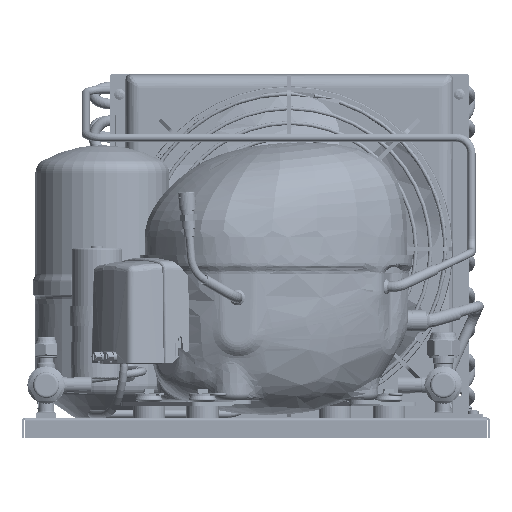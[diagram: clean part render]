
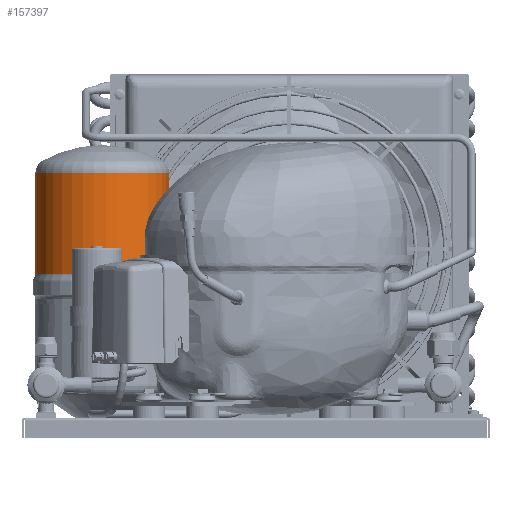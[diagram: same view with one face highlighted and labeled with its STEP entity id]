
A CAD part, front view. The second image highlights one B-rep face of the part: STEP entity #157397.
In plain terms, the highlighted cylindrical face has radius 50 mm (diameter 100 mm), a full revolution.
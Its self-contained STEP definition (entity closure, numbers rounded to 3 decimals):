
#3761=B_SPLINE_CURVE_WITH_KNOTS('',3,(#261735,#261736,#261737,#261738,#261739,
#261740,#261741,#261742,#261743,#261744,#261745,#261746,#261747,#261748,
#261749,#261750,#261751,#261752,#261753,#261754,#261755,#261756,#261757,
#261758,#261759,#261760,#261761,#261762,#261763),.UNSPECIFIED.,.T.,.F.,
(1,1,1,1,1,1,1,1,1,1,1,1,1,1,1,1,1,1,1,1,1,1,1,1,1,1,1,1,1,1,1,1,1),(-0.128,
-0.066,-0.033,0.,0.059,0.091,0.122,
0.184,0.215,0.247,0.309,0.34,
0.372,0.434,0.497,0.5,
0.53,0.559,0.591,0.622,
0.684,0.715,0.747,0.778,
0.809,0.84,0.872,0.934,
0.967,1.,1.059,1.091,1.122),.UNSPECIFIED.);
#40418=CYLINDRICAL_SURFACE('',#167180,50.);
#42891=CIRCLE('',#167181,50.);
#42892=CIRCLE('',#167182,50.);
#59925=ORIENTED_EDGE('',*,*,#89938,.T.);
#59926=ORIENTED_EDGE('',*,*,#89939,.T.);
#59927=ORIENTED_EDGE('',*,*,#89940,.T.);
#89938=EDGE_CURVE('',#106049,#106049,#42891,.F.);
#89939=EDGE_CURVE('',#106050,#106050,#3761,.T.);
#89940=EDGE_CURVE('',#106051,#106051,#42892,.T.);
#106049=VERTEX_POINT('',#261734);
#106050=VERTEX_POINT('',#261764);
#106051=VERTEX_POINT('',#261766);
#133126=EDGE_LOOP('',(#59925));
#133127=EDGE_LOOP('',(#59926));
#133128=EDGE_LOOP('',(#59927));
#143175=FACE_BOUND('',#133126,.T.);
#143176=FACE_BOUND('',#133127,.T.);
#143177=FACE_BOUND('',#133128,.T.);
#157397=ADVANCED_FACE('',(#143175,#143176,#143177),#40418,.T.);
#167180=AXIS2_PLACEMENT_3D('',#261732,#186169,#186170);
#167181=AXIS2_PLACEMENT_3D('',#261733,#186171,#186172);
#167182=AXIS2_PLACEMENT_3D('',#261765,#186173,#186174);
#186169=DIRECTION('',(0.,0.,-1.));
#186170=DIRECTION('',(-1.,0.,0.));
#186171=DIRECTION('',(0.,0.,-1.));
#186172=DIRECTION('',(-1.,0.,0.));
#186173=DIRECTION('',(0.,0.,-1.));
#186174=DIRECTION('',(-1.,0.,0.));
#261732=CARTESIAN_POINT('',(0.,0.,-11.));
#261733=CARTESIAN_POINT('',(0.,0.,107.849));
#261734=CARTESIAN_POINT('',(-50.,0.,107.849));
#261735=CARTESIAN_POINT('',(-49.98,1.706,178.875));
#261736=CARTESIAN_POINT('',(-50.018,-0.456,179.116));
#261737=CARTESIAN_POINT('',(-49.95,-2.604,178.671));
#261738=CARTESIAN_POINT('',(-49.8,-4.535,177.616));
#261739=CARTESIAN_POINT('',(-49.621,-6.235,176.171));
#261740=CARTESIAN_POINT('',(-49.438,-7.497,174.214));
#261741=CARTESIAN_POINT('',(-49.325,-8.192,171.93));
#261742=CARTESIAN_POINT('',(-49.28,-8.45,169.606));
#261743=CARTESIAN_POINT('',(-49.349,-8.059,167.251));
#261744=CARTESIAN_POINT('',(-49.502,-7.059,165.111));
#261745=CARTESIAN_POINT('',(-49.681,-5.722,163.275));
#261746=CARTESIAN_POINT('',(-49.912,-3.443,161.549));
#261747=CARTESIAN_POINT('',(-49.998,-1.227,161.013));
#261748=CARTESIAN_POINT('',(-50.001,0.471,160.994));
#261749=CARTESIAN_POINT('',(-49.984,1.543,161.103));
#261750=CARTESIAN_POINT('',(-49.913,3.082,161.587));
#261751=CARTESIAN_POINT('',(-49.8,4.538,162.384));
#261752=CARTESIAN_POINT('',(-49.621,6.236,163.83));
#261753=CARTESIAN_POINT('',(-49.438,7.495,165.787));
#261754=CARTESIAN_POINT('',(-49.325,8.193,168.074));
#261755=CARTESIAN_POINT('',(-49.292,8.384,169.817));
#261756=CARTESIAN_POINT('',(-49.313,8.259,171.577));
#261757=CARTESIAN_POINT('',(-49.389,7.803,173.293));
#261758=CARTESIAN_POINT('',(-49.503,7.054,174.896));
#261759=CARTESIAN_POINT('',(-49.682,5.713,176.735));
#261760=CARTESIAN_POINT('',(-49.869,3.878,178.115));
#261761=CARTESIAN_POINT('',(-49.98,1.706,178.875));
#261762=CARTESIAN_POINT('',(-50.018,-0.456,179.116));
#261763=CARTESIAN_POINT('',(-49.95,-2.604,178.671));
#261764=CARTESIAN_POINT('',(-50.,0.,179.));
#261765=CARTESIAN_POINT('',(0.,0.,183.409));
#261766=CARTESIAN_POINT('',(-50.,0.,183.409));
